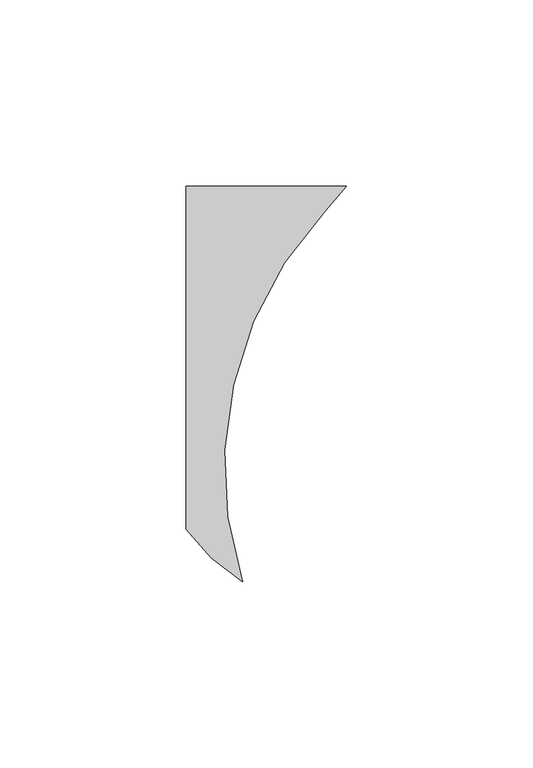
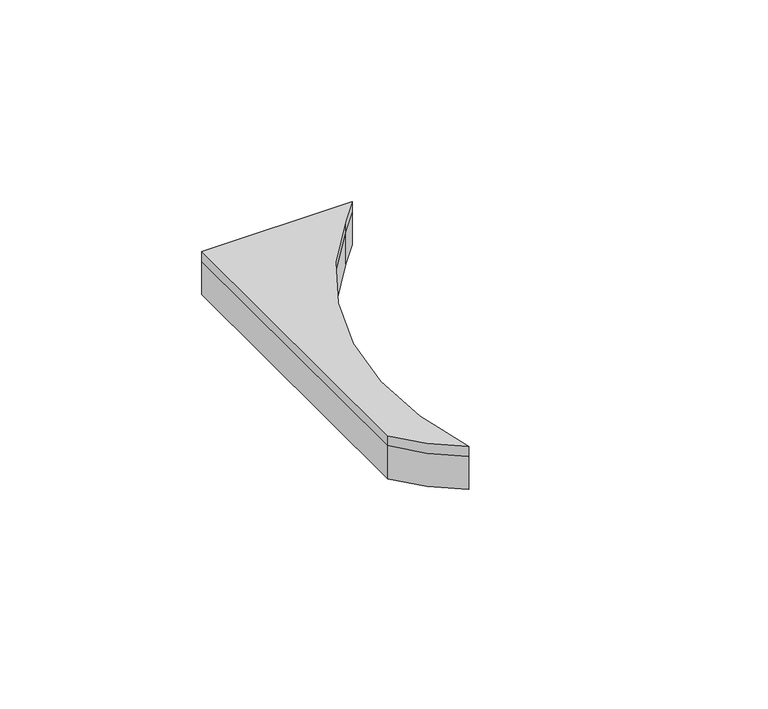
"""IFC4 building model written with IfcOpenShell, lengths in millimetres: proxy geometry, FilzFelt_Fish_Block : Fish Block."""

import ifcopenshell
import ifcopenshell.guid

model = None  # the IFC model being written
_history = None  # IfcOwnerHistory: only IFC2X3 demands one
_inside = {}  # id of a spatial element -> (the spatial element, [elements in it])
_under = {}  # id of a project, library or spatial element -> (it, [spatial elements below it])
_declared = {}  # id of a project -> (the project, [libraries it declares])
_typed = {}  # id of a type object -> (the type object, [elements of that type])
_made_of = {}  # id of a material, layer set ... -> (it, [elements and type objects made of it])


def new_model(schema):
    """Start an empty IFC model of exactly this schema.

    Asked for "IFC4X3", IfcOpenShell would pick the latest addendum, in which some entities
    have other attributes; the version numbers below select the first issue.
    IFC2X3 requires an IfcOwnerHistory on every rooted entity: one is made here for all.
    """
    global model, _history
    if schema == "IFC4X3":
        model = ifcopenshell.file(schema_version=(4, 3, 0, 0))
    else:
        model = ifcopenshell.file(schema=schema)
    _inside.clear()
    _under.clear()
    _declared.clear()
    _typed.clear()
    _made_of.clear()
    _history = None
    if model.schema == "IFC2X3":
        org = make("IfcOrganization", Name="unknown")
        user = make(
            "IfcPersonAndOrganization",
            ThePerson=make("IfcPerson", FamilyName="unknown"),
            TheOrganization=org,
        )
        app = make(
            "IfcApplication",
            ApplicationDeveloper=org,
            Version="unknown",
            ApplicationFullName="unknown",
            ApplicationIdentifier="unknown",
        )
        _history = make(
            "IfcOwnerHistory",
            OwningUser=user,
            OwningApplication=app,
            ChangeAction="ADDED",
            CreationDate=0,
        )
    return model


def make(cls, **values):
    """One entity of the class cls with the attributes given. An attribute that is None is left unset."""
    return model.create_entity(
        cls, **{name: value for name, value in values.items() if value is not None}
    )


def rooted(cls, **values):
    """An entity with a GlobalId (a new one), such as an element, a storey or a relation."""
    return make(cls, GlobalId=ifcopenshell.guid.new(), OwnerHistory=_history, **values)


def si_unit(unit_type, name, prefix=None):
    """IfcSIUnit, for example si_unit("LENGTHUNIT", "METRE", prefix="MILLI")."""
    return make("IfcSIUnit", UnitType=unit_type, Prefix=prefix, Name=name)


def assignment(units):
    """IfcUnitAssignment: the units of a project."""
    return None if units is None else make("IfcUnitAssignment", Units=units)


def point(xyz):
    """IfcCartesianPoint."""
    return None if xyz is None else make("IfcCartesianPoint", Coordinates=xyz)


def direction(xyz):
    """IfcDirection."""
    return None if xyz is None else make("IfcDirection", DirectionRatios=xyz)


def frame(location, z_axis=None, x_axis=None):
    """IfcAxis2Placement3D, a coordinate frame: its origin and axes. An axis left out is left unset."""
    return make(
        "IfcAxis2Placement3D",
        Location=point(location),
        Axis=direction(z_axis),
        RefDirection=direction(x_axis),
    )


def frame_2d(location, x_axis=None):
    """IfcAxis2Placement2D, a coordinate frame in the plane: its origin and x axis."""
    return make(
        "IfcAxis2Placement2D", Location=point(location), RefDirection=direction(x_axis)
    )


def origin():
    """The frame at (0, 0, 0) with its axes left unset."""
    return frame((0.0, 0.0, 0.0))


def origin_with_axes():
    """The frame at (0, 0, 0) with the z axis (0, 0, 1) and the x axis (1, 0, 0) written out."""
    return frame((0.0, 0.0, 0.0), z_axis=(0.0, 0.0, 1.0), x_axis=(1.0, 0.0, 0.0))


def place(relative_to, where):
    """IfcLocalPlacement: puts the frame where relative to a parent placement (None: the world)."""
    return make(
        "IfcLocalPlacement", PlacementRelTo=relative_to, RelativePlacement=where
    )


def context(
    kind, dimensions, precision=None, world=None, true_north=None, identifier=None
):
    """IfcGeometricRepresentationContext, for example the 3D "Model" context."""
    return make(
        "IfcGeometricRepresentationContext",
        ContextIdentifier=identifier,
        ContextType=kind,
        CoordinateSpaceDimension=dimensions,
        Precision=precision,
        WorldCoordinateSystem=world,
        TrueNorth=true_north,
    )


def project(units=None, contexts=None):
    """IfcProject with its units and contexts."""
    return rooted(
        "IfcProject",
        Name="project",
        RepresentationContexts=contexts,
        UnitsInContext=assignment(units),
    )


def spatial(cls, under=None, at=None, **own):
    """A site, building, storey or space (cls), placed at a placement, below another one or the project."""
    s = rooted(cls, ObjectPlacement=at, **own)
    if under is not None:
        _under.setdefault(under.id(), (under, []))[1].append(s)
    return s


def polyline(points):
    """IfcPolyline through the points."""
    return make("IfcPolyline", Points=[point(p) for p in points])


def circle_curve(where, radius):
    """IfcCircle in the frame where."""
    return make("IfcCircle", Position=where, Radius=radius)


def trimmed(basis, trim1, trim2, sense, master):
    """IfcTrimmedCurve: the piece of a basis curve between two trims."""
    return make(
        "IfcTrimmedCurve",
        BasisCurve=basis,
        Trim1=trim1,
        Trim2=trim2,
        SenseAgreement=sense,
        MasterRepresentation=master,
    )


def segment(curve, same_sense, transition):
    """IfcCompositeCurveSegment."""
    return make(
        "IfcCompositeCurveSegment",
        Transition=transition,
        SameSense=same_sense,
        ParentCurve=curve,
    )


def composite_curve(segments, self_intersect=None):
    """IfcCompositeCurve: segments joined end to end."""
    return make("IfcCompositeCurve", Segments=segments, SelfIntersect=self_intersect)


def outline(outer, holes=None, kind="AREA"):
    """IfcArbitraryClosedProfileDef: a profile drawn as a closed curve; with holes, ...WithVoids."""
    if holes is None:
        return make("IfcArbitraryClosedProfileDef", ProfileType=kind, OuterCurve=outer)
    return make(
        "IfcArbitraryProfileDefWithVoids",
        ProfileType=kind,
        OuterCurve=outer,
        InnerCurves=holes,
    )


def extrude(swept, where, along, depth):
    """IfcExtrudedAreaSolid: the profile swept, set in the frame where, extruded along a direction by depth."""
    return make(
        "IfcExtrudedAreaSolid",
        SweptArea=swept,
        Position=where,
        ExtrudedDirection=direction(along),
        Depth=depth,
    )


def shape(context_of_items, identifier, shape_type, items):
    """IfcShapeRepresentation: the items that make up one representation, for example the "Body"."""
    return make(
        "IfcShapeRepresentation",
        ContextOfItems=context_of_items,
        RepresentationIdentifier=identifier,
        RepresentationType=shape_type,
        Items=items,
    )


def source(mapping_origin, context_of_items, identifier, shape_type, items):
    """IfcRepresentationMap: a shape defined once, which mapped items show again and again."""
    return make(
        "IfcRepresentationMap",
        MappingOrigin=mapping_origin,
        MappedRepresentation=shape(context_of_items, identifier, shape_type, items),
    )


def transform(
    local_origin,
    x_axis=None,
    y_axis=None,
    z_axis=None,
    scale=None,
    scale2=None,
    scale3=None,
    uniform=True,
):
    """IfcCartesianTransformationOperator3D, or its non-uniform kind. x_axis, y_axis, z_axis: its Axis1, 2, 3."""
    if uniform:
        return make(
            "IfcCartesianTransformationOperator3D",
            Axis1=direction(x_axis),
            Axis2=direction(y_axis),
            LocalOrigin=point(local_origin),
            Scale=scale,
            Axis3=direction(z_axis),
        )
    return make(
        "IfcCartesianTransformationOperator3DnonUniform",
        Axis1=direction(x_axis),
        Axis2=direction(y_axis),
        LocalOrigin=point(local_origin),
        Scale=scale,
        Axis3=direction(z_axis),
        Scale2=scale2,
        Scale3=scale3,
    )


def mapped(mapping_source, mapping_target):
    """IfcMappedItem: shows the shape of a source again, moved by a transform."""
    return make(
        "IfcMappedItem", MappingSource=mapping_source, MappingTarget=mapping_target
    )


def made_of(thing, what):
    """Note that an element or type object is made of a material, layer set ...; save() writes the relation."""
    if what is not None:
        _made_of.setdefault(what.id(), (what, []))[1].append(thing)
    return thing


def element(
    cls,
    number,
    at=None,
    inside=None,
    cuts=None,
    type_object=None,
    material=None,
    context=None,
    identifier="Body",
    shape_type=None,
    held_by="IfcProductDefinitionShape",
    body=None,
    shapes=None,
    **own,
):
    """One element of the class cls, such as IfcWall. Its Tag is "e" and its number.

    at: its placement. inside: the storey or other place that contains it. cuts: it is an
    opening in that element (IfcRelVoidsElement). A single representation is given by context,
    identifier, shape_type and body (its items); several are given by shapes. held_by: the class
    of the entity that holds the representations. save() writes the other relations.
    """
    e = rooted(cls, Tag="e%d" % number, ObjectPlacement=at, **own)
    if body is not None:
        shapes = [shape(context, identifier, shape_type, body)]
    if shapes is not None:
        e.Representation = make(held_by, Representations=shapes)
    if inside is not None:
        _inside.setdefault(inside.id(), (inside, []))[1].append(e)
    if cuts is not None:
        rooted(
            "IfcRelVoidsElement", RelatingBuildingElement=cuts, RelatedOpeningElement=e
        )
    if type_object is not None:
        _typed.setdefault(type_object.id(), (type_object, []))[1].append(e)
    return made_of(e, material)


def aggregate(whole, parts):
    """IfcRelAggregates: a whole, such as a stair, and the parts it consists of."""
    return rooted("IfcRelAggregates", RelatingObject=whole, RelatedObjects=parts)


def save(model, path):
    """Write the relations noted so far, then the file.

    IfcRelAggregates (storeys below a building ...), IfcRelContainedInSpatialStructure (elements
    in a storey), IfcRelDefinesByType, IfcRelAssociatesMaterial and IfcRelDeclares: one each for
    every whole, place, type object, material and project.
    """
    for whole, parts in _under.values():
        aggregate(whole, parts)
    for where, things in _inside.values():
        rooted(
            "IfcRelContainedInSpatialStructure",
            RelatedElements=things,
            RelatingStructure=where,
        )
    for kind, things in _typed.values():
        rooted("IfcRelDefinesByType", RelatedObjects=things, RelatingType=kind)
    for what, things in _made_of.values():
        rooted("IfcRelAssociatesMaterial", RelatedObjects=things, RelatingMaterial=what)
    for by, libraries in _declared.values():
        rooted("IfcRelDeclares", RelatingContext=by, RelatedDefinitions=libraries)
    model.write(path)


def specialty_equipment_9b4069bb(model_context):
    return source(origin(), model_context, "Body", "SweptSolid", [
        extrude(outline(composite_curve([segment(trimmed(circle_curve(frame_2d((126.6124317, -137.2240266)), 100.2293629), [point((53.5486457, -68.6120133))], [point((31.2619065, -168.1141956))], True, "CARTESIAN"), True, "CONTINUOUS"), segment(trimmed(circle_curve(frame_2d((57.9263497, -124.2921115)), 51.2968574), [point((31.2619065, -168.1141956))], [point((16.1629825, -154.0778253))], False, "CARTESIAN"), True, "CONTINUOUS"), segment(polyline([(16.1629825, -154.0778253), (16.1629825, -62.1573751), (59.1130093, -62.1573751)]), True, "CONTINUOUS"), segment(trimmed(circle_curve(frame_2d((-19.5151403, 0.0)), 100.2293629), [point((59.1130093, -62.1573751))], [point((53.5486457, -68.6120133))], False, "CARTESIAN"), True, "CONTINUOUS")], self_intersect=False)), frame((0.0, 0.0, 10.0210937), z_axis=(0.0, 0.0, 1.0), x_axis=(1.0, 0.0, 0.0)), (0.0, 0.0, 1.0), 2.9765625),
        extrude(outline(composite_curve([segment(trimmed(circle_curve(frame_2d((126.6124317, -137.2240266)), 100.2293629), [point((53.5486457, -68.6120133))], [point((31.2619065, -168.1141956))], True, "CARTESIAN"), True, "CONTINUOUS"), segment(trimmed(circle_curve(frame_2d((57.9263497, -124.2921115)), 51.2968574), [point((31.2619065, -168.1141956))], [point((16.1629825, -154.0778253))], False, "CARTESIAN"), True, "CONTINUOUS"), segment(polyline([(16.1629825, -154.0778253), (16.1629825, -62.1573751), (59.1130093, -62.1573751)]), True, "CONTINUOUS"), segment(trimmed(circle_curve(frame_2d((-19.5151403, 0.0)), 100.2293629), [point((59.1130093, -62.1573751))], [point((53.5486457, -68.6120133))], False, "CARTESIAN"), True, "CONTINUOUS")], self_intersect=False)), origin_with_axes(), (0.0, 0.0, 1.0), 10.0210938),
    ])


if __name__ == "__main__":
    model = new_model("IFC4")
    model_context = context("Model", 3, world=origin())
    ifc_project = project(units=[si_unit("LENGTHUNIT", "METRE", prefix="MILLI")], contexts=[model_context])
    site = spatial("IfcSite", under=ifc_project)
    building = spatial("IfcBuilding", under=site)
    placement = place(None, origin())
    specialty_equipment_shape = specialty_equipment_9b4069bb(model_context)
    element("IfcBuildingElementProxy", 1, Name="FilzFelt_Fish_Block : Fish Block", ObjectType="FilzFelt_Fish_Block : Fish Block", at=placement, inside=building, context=model_context, shape_type="MappedRepresentation", body=[
        mapped(specialty_equipment_shape, transform((0.0, 0.0, 0.0), x_axis=(1.0, 0.0, 0.0), y_axis=(0.0, 1.0, 0.0), z_axis=(0.0, 0.0, 1.0))),
    ])
    save(model, "model.ifc")
